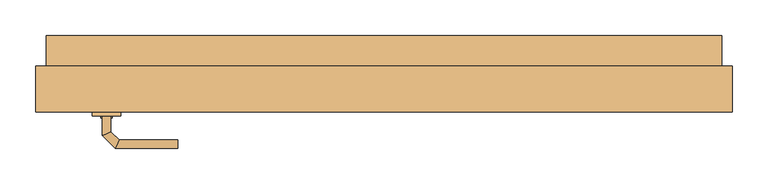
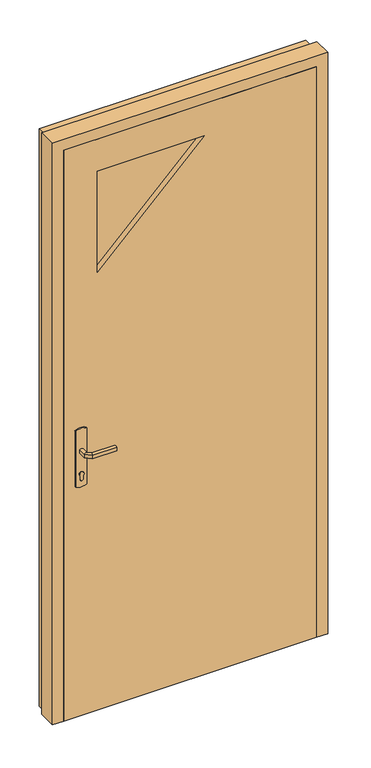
"""IFC4 building model written with IfcOpenShell, lengths in millimetres: door geometry, Entrée (avec angle d'ouverture) : PV Triangulaire (0.90 m x 2.15 m)."""

from ifc_helpers import new_model, si_unit, point, frame, frame_2d, origin, place, context, project, spatial, polyline, circle_curve, ellipse_curve, trimmed, segment, composite_curve, outline, extrude, faceted_brep, source, transform, mapped, element, save
from ifc_brep_helpers import plane_surface, cylinder_surface, advanced_brep


def door_5b9d6ae5(model_context):
    return source(origin(), model_context, "Body", "SolidModel", [
        extrude(outline(composite_curve([segment(polyline([(908.0464422, -405.0), (895.0, -405.0)]), True, "CONTINUOUS"), segment(trimmed(circle_curve(frame_2d((895.0, -400.0)), 5.0), [point((895.0, -405.0))], [point((895.0, -395.0))], False, "CARTESIAN"), True, "CONTINUOUS"), segment(polyline([(895.0, -395.0), (908.0464422, -395.0)]), True, "CONTINUOUS"), segment(trimmed(circle_curve(frame_2d((914.2914402, -400.0)), 8.0), [point((908.0464422, -395.0))], [point((908.0464422, -405.0))], False, "CARTESIAN"), True, "CONTINUOUS")], self_intersect=False)), frame((0.0, -53.0, 0.0), z_axis=(0.0, 1.0, 0.0), x_axis=(0.0, 0.0, 1.0)), (0.0, 0.0, 1.0), 5.0),
        extrude(outline(composite_curve([segment(polyline([(908.0464422, -405.0), (895.0, -405.0)]), True, "CONTINUOUS"), segment(trimmed(circle_curve(frame_2d((895.0, -400.0)), 5.0), [point((895.0, -405.0))], [point((895.0, -395.0))], False, "CARTESIAN"), True, "CONTINUOUS"), segment(polyline([(895.0, -395.0), (908.0464422, -395.0)]), True, "CONTINUOUS"), segment(trimmed(circle_curve(frame_2d((914.2914402, -400.0)), 8.0), [point((908.0464422, -395.0))], [point((908.0464422, -405.0))], False, "CARTESIAN"), True, "CONTINUOUS")], self_intersect=False)), frame((0.0, -116.0, 0.0), z_axis=(0.0, 1.0, 0.0), x_axis=(0.0, 0.0, 1.0)), (0.0, 0.0, 1.0), 3.0),
        advanced_brep(
        [(-394.0, -53.0, 993.0), (-394.0, -53.0, 1007.0), (-406.0, -53.0, 1007.0), (-406.0, -53.0, 993.0), (-394.0, -30.5147955, 993.0), (-394.0, -30.5147955, 1007.0), (-406.0, -25.5442327, 1007.0), (-406.0, -25.5442327, 993.0), (-382.5147186, -19.0295141, 993.0), (-382.5147186, -19.0295141, 1007.0), (-387.4852814, -7.0295141, 1007.0), (-387.4852814, -7.0295141, 993.0), (-299.9542164, -19.0295141, 993.0), (-299.9542164, -7.0295141, 993.0), (-299.9542164, -7.0295141, 1007.0), (-299.9542164, -19.0295141, 1007.0)],
        [
            (0, 1),
            (1, 2, circle_curve(frame((-400.0, -53.0, 986.9542278), z_axis=(0.0, -1.0, 0.0), x_axis=(-1.0, 0.0, 0.0)), 20.9244589)),
            (2, 3),
            (3, 0, circle_curve(frame((-400.0, -53.0, 1013.0457722), z_axis=(0.0, -1.0, 0.0), x_axis=(-1.0, 0.0, 0.0)), 20.9244589)),
            (0, 4),
            (4, 5),
            (5, 1),
            (5, 6, ellipse_curve(frame((-400.0, -28.0295141, 986.9542278), z_axis=(-0.3826834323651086, -0.923879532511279, 0.0), x_axis=(0.9238795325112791, -0.3826834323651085, 0.0)), 22.6484711, 20.9244589)),
            (6, 2),
            (6, 7),
            (7, 3),
            (7, 4, ellipse_curve(frame((-400.0, -28.0295141, 1013.0457722), z_axis=(-0.3826834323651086, -0.923879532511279, 0.0), x_axis=(0.9238795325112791, -0.3826834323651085, 0.0)), 22.6484711, 20.9244589)),
            (4, 8),
            (8, 9),
            (9, 5),
            (9, 10, ellipse_curve(frame((-385.0, -13.0295141, 986.9542278), z_axis=(-0.9238795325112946, -0.38268343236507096, 0.0), x_axis=(0.3826834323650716, -0.9238795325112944, 0.0)), 22.6484711, 20.9244589)),
            (10, 6),
            (10, 11),
            (11, 7),
            (11, 8, ellipse_curve(frame((-385.0, -13.0295141, 1013.0457722), z_axis=(-0.9238795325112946, -0.38268343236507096, 0.0), x_axis=(0.3826834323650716, -0.9238795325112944, 0.0)), 22.6484711, 20.9244589)),
            (12, 13, circle_curve(frame((-299.9542164, -13.0295141, 1013.0457722), z_axis=(1.0, 0.0, 0.0), x_axis=(0.0, 1.0, 0.0)), 20.9244589)),
            (13, 14),
            (14, 15, circle_curve(frame((-299.9542164, -13.0295141, 986.9542278), z_axis=(1.0, 0.0, 0.0), x_axis=(0.0, 1.0, 0.0)), 20.9244589)),
            (15, 12),
            (8, 12),
            (15, 9),
            (14, 10),
            (13, 11),
        ],
        [
            plane_surface(frame((-409.2195445, -53.0, 1000.0), z_axis=(0.0, -1.0, 0.0), x_axis=(0.0, 0.0, 1.0))),
            plane_surface(frame((-394.0, -53.0, 993.0), z_axis=(1.0, 0.0, 0.0), x_axis=(0.0, 1.0, 0.0))),
            cylinder_surface(frame((-400.0, -53.0, 986.9542278), z_axis=(0.0, -1.0, 0.0), x_axis=(-1.0, 0.0, 0.0)), 20.9244589),
            plane_surface(frame((-406.0, -53.0, 1007.0), z_axis=(-1.0, 0.0, 0.0), x_axis=(0.0, 1.0, 0.0))),
            cylinder_surface(frame((-400.0, -53.0, 1013.0457722), z_axis=(0.0, -1.0, 0.0), x_axis=(-1.0, 0.0, 0.0)), 20.9244589),
            plane_surface(frame((-394.0, -30.5147955, 993.0), z_axis=(0.7071067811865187, -0.7071067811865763, 0.0), x_axis=(0.7071067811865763, 0.7071067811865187, 0.0))),
            cylinder_surface(frame((-400.0, -28.0295141, 986.9542278), z_axis=(-0.7071067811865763, -0.7071067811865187, 0.0), x_axis=(-0.7071067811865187, 0.7071067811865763, 0.0)), 20.9244589),
            plane_surface(frame((-406.0, -25.5442327, 1007.0), z_axis=(-0.7071067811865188, 0.7071067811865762, 0.0), x_axis=(0.7071067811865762, 0.7071067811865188, 0.0))),
            cylinder_surface(frame((-400.0, -28.0295141, 1013.0457722), z_axis=(-0.7071067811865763, -0.7071067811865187, 0.0), x_axis=(-0.7071067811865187, 0.7071067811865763, 0.0)), 20.9244589),
            plane_surface(frame((-299.9542164, -13.0295141, 990.7804555), z_axis=(1.0, 0.0, 0.0), x_axis=(0.0, 1.0, 0.0))),
            plane_surface(frame((-382.5147186, -19.0295141, 993.0), z_axis=(0.0, -1.0, 0.0), x_axis=(1.0, 0.0, 0.0))),
            cylinder_surface(frame((-385.0, -13.0295141, 986.9542278), z_axis=(-1.0, 0.0, 0.0), x_axis=(0.0, 1.0, 0.0)), 20.9244589),
            plane_surface(frame((-387.4852814, -7.0295141, 1007.0), z_axis=(0.0, 1.0, 0.0), x_axis=(1.0, 0.0, 0.0))),
            cylinder_surface(frame((-385.0, -13.0295141, 1013.0457722), z_axis=(-1.0, 0.0, 0.0), x_axis=(0.0, 1.0, 0.0)), 20.9244589),
        ],
        [
            (0, [[1, 2, 3, 4]]),
            (1, [[-1, 5, 6, 7]]),
            (2, [[-2, -7, 8, 9]]),
            (3, [[-3, -9, 10, 11]]),
            (4, [[-4, -11, 12, -5]]),
            (5, [[-6, 13, 14, 15]]),
            (6, [[-8, -15, 16, 17]]),
            (7, [[-10, -17, 18, 19]]),
            (8, [[-12, -19, 20, -13]]),
            (9, [[21, 22, 23, 24]]),
            (10, [[-14, 25, -24, 26]]),
            (11, [[-16, -26, -23, 27]]),
            (12, [[-18, -27, -22, 28]]),
            (13, [[-20, -28, -21, -25]]),
        ],
    ),
        advanced_brep(
        [(-406.0, -113.0, 1007.0), (-394.0, -113.0, 1007.0), (-394.0, -113.0, 993.0), (-406.0, -113.0, 993.0), (-406.0, -140.6509507, 1007.0), (-394.0, -135.680388, 1007.0), (-394.0, -135.680388, 993.0), (-406.0, -140.6509507, 993.0), (-387.62279, -159.0281607, 1007.0), (-382.6522273, -147.0281607, 1007.0), (-382.6522273, -147.0281607, 993.0), (-387.62279, -159.0281607, 993.0), (-299.9813594, -159.0281607, 1007.0), (-299.9813594, -159.0281607, 993.0), (-299.9813594, -147.0281607, 993.0), (-299.9813594, -147.0281607, 1007.0)],
        [
            (0, 1, circle_curve(frame((-400.0, -113.0, 986.9542278), z_axis=(0.0, 1.0, 0.0), x_axis=(1.0, 0.0, 0.0)), 20.9244589)),
            (1, 2),
            (2, 3, circle_curve(frame((-400.0, -113.0, 1013.0457722), z_axis=(0.0, 1.0, 0.0), x_axis=(1.0, 0.0, 0.0)), 20.9244589)),
            (3, 0),
            (0, 4),
            (4, 5, ellipse_curve(frame((-400.0, -138.1656693, 986.9542278), z_axis=(-0.3826834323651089, 0.9238795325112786, 0.0), x_axis=(0.9238795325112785, 0.3826834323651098, 0.0)), 22.6484711, 20.9244589)),
            (5, 1),
            (5, 6),
            (6, 2),
            (6, 7, ellipse_curve(frame((-400.0, -138.1656693, 1013.0457722), z_axis=(-0.3826834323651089, 0.9238795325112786, 0.0), x_axis=(0.9238795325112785, 0.3826834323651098, 0.0)), 22.6484711, 20.9244589)),
            (7, 3),
            (7, 4),
            (4, 8),
            (8, 9, ellipse_curve(frame((-385.1375087, -153.0281607, 986.9542278), z_axis=(-0.9238795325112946, 0.38268343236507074, 0.0), x_axis=(0.3826834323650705, 0.9238795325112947, 0.0)), 22.6484711, 20.9244589)),
            (9, 5),
            (9, 10),
            (10, 6),
            (10, 11, ellipse_curve(frame((-385.1375087, -153.0281607, 1013.0457722), z_axis=(-0.9238795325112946, 0.38268343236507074, 0.0), x_axis=(0.3826834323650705, 0.9238795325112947, 0.0)), 22.6484711, 20.9244589)),
            (11, 7),
            (11, 8),
            (12, 13),
            (13, 14, circle_curve(frame((-299.9813594, -153.0281607, 1013.0457722), z_axis=(1.0, 0.0, 0.0), x_axis=(0.0, 1.0, 0.0)), 20.9244589)),
            (14, 15),
            (15, 12, circle_curve(frame((-299.9813594, -153.0281607, 986.9542278), z_axis=(1.0, 0.0, 0.0), x_axis=(0.0, 1.0, 0.0)), 20.9244589)),
            (8, 12),
            (15, 9),
            (14, 10),
            (13, 11),
        ],
        [
            plane_surface(frame((-409.2195445, -113.0, 1000.0), z_axis=(0.0, 1.0, 0.0), x_axis=(0.0, 0.0, -1.0))),
            cylinder_surface(frame((-400.0, -113.0, 986.9542278), z_axis=(0.0, 1.0, 0.0), x_axis=(1.0, 0.0, 0.0)), 20.9244589),
            plane_surface(frame((-394.0, -113.0, 1007.0), z_axis=(1.0, 0.0, 0.0), x_axis=(0.0, -1.0, 0.0))),
            cylinder_surface(frame((-400.0, -113.0, 1013.0457722), z_axis=(0.0, 1.0, 0.0), x_axis=(1.0, 0.0, 0.0)), 20.9244589),
            plane_surface(frame((-406.0, -113.0, 993.0), z_axis=(-1.0, 0.0, 0.0), x_axis=(0.0, -1.0, 0.0))),
            cylinder_surface(frame((-400.0, -138.1656693, 986.9542278), z_axis=(-0.7071067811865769, 0.7071067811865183, 0.0), x_axis=(0.7071067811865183, 0.7071067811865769, 0.0)), 20.9244589),
            plane_surface(frame((-394.0, -135.680388, 1007.0), z_axis=(0.7071067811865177, 0.7071067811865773, 0.0), x_axis=(0.7071067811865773, -0.7071067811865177, 0.0))),
            cylinder_surface(frame((-400.0, -138.1656693, 1013.0457722), z_axis=(-0.7071067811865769, 0.7071067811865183, 0.0), x_axis=(0.7071067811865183, 0.7071067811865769, 0.0)), 20.9244589),
            plane_surface(frame((-406.0, -140.6509507, 993.0), z_axis=(-0.7071067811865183, -0.7071067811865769, 0.0), x_axis=(0.7071067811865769, -0.7071067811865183, 0.0))),
            plane_surface(frame((-299.9813594, -153.0281607, 990.7804555), z_axis=(1.0, 0.0, 0.0), x_axis=(0.0, 1.0, 0.0))),
            cylinder_surface(frame((-385.1375087, -153.0281607, 986.9542278), z_axis=(-1.0, 0.0, 0.0), x_axis=(0.0, 1.0, 0.0)), 20.9244589),
            plane_surface(frame((-382.6522273, -147.0281607, 1007.0), z_axis=(0.0, 1.0, 0.0), x_axis=(1.0, 0.0, 0.0))),
            cylinder_surface(frame((-385.1375087, -153.0281607, 1013.0457722), z_axis=(-1.0, 0.0, 0.0), x_axis=(0.0, 1.0, 0.0)), 20.9244589),
            plane_surface(frame((-387.62279, -159.0281607, 993.0), z_axis=(0.0, -1.0, 0.0), x_axis=(1.0, 0.0, 0.0))),
        ],
        [
            (0, [[1, 2, 3, 4]]),
            (1, [[-1, 5, 6, 7]]),
            (2, [[-2, -7, 8, 9]]),
            (3, [[-3, -9, 10, 11]]),
            (4, [[-4, -11, 12, -5]]),
            (5, [[-6, 13, 14, 15]]),
            (6, [[-8, -15, 16, 17]]),
            (7, [[-10, -17, 18, 19]]),
            (8, [[-12, -19, 20, -13]]),
            (9, [[21, 22, 23, 24]]),
            (10, [[-14, 25, -24, 26]]),
            (11, [[-16, -26, -23, 27]]),
            (12, [[-18, -27, -22, 28]]),
            (13, [[-20, -28, -21, -25]]),
        ],
    ),
        extrude(outline(composite_curve([segment(trimmed(circle_curve(frame_2d((1045.3589838, -400.0)), 40.0), [point((1080.0, -380.0))], [point((1080.0, -420.0))], False, "CARTESIAN"), True, "CONTINUOUS"), segment(polyline([(1080.0, -420.0), (870.0, -420.0)]), True, "CONTINUOUS"), segment(trimmed(circle_curve(frame_2d((904.6410162, -400.0)), 40.0), [point((870.0, -420.0))], [point((870.0, -380.0))], False, "CARTESIAN"), True, "CONTINUOUS"), segment(polyline([(870.0, -380.0), (1080.0, -380.0)]), True, "CONTINUOUS")], self_intersect=False)), frame((0.0, -58.0, 0.0), z_axis=(0.0, 1.0, 0.0), x_axis=(0.0, 0.0, 1.0)), (0.0, 0.0, 1.0), 5.0),
        extrude(outline(composite_curve([segment(trimmed(circle_curve(frame_2d((904.6410162, -400.0)), 40.0), [point((870.0, -420.0))], [point((870.0, -380.0))], False, "CARTESIAN"), True, "CONTINUOUS"), segment(polyline([(870.0, -380.0), (1080.0, -380.0)]), True, "CONTINUOUS"), segment(trimmed(circle_curve(frame_2d((1045.3589838, -400.0)), 40.0), [point((1080.0, -380.0))], [point((1080.0, -420.0))], False, "CARTESIAN"), True, "CONTINUOUS"), segment(polyline([(1080.0, -420.0), (870.0, -420.0)]), True, "CONTINUOUS")], self_intersect=False)), frame((0.0, -113.0, 0.0), z_axis=(0.0, 1.0, 0.0), x_axis=(0.0, 0.0, 1.0)), (0.0, 0.0, 1.0), 5.0),
        faceted_brep([(440.0, -108.0, 2150.0), (-460.0, -108.0, 2150.0), (-460.0, -108.0, 0.0), (440.0, -108.0, 0.0), (41.0511776, -108.0, 2030.0), (-340.0, -108.0, 1648.9488223), (-340.0, -108.0, 2030.0), (440.0, -58.0, 2150.0), (440.0, -58.0, 0.0), (-460.0, -58.0, 0.0), (-460.0, -58.0, 2150.0), (-340.0, -58.0, 1135.0), (320.0, -58.0, 1135.0), (320.0, -58.0, 2030.0), (-340.0, -58.0, 2030.0), (-340.0, -58.0, 120.0), (320.0, -58.0, 120.0), (320.0, -58.0, 1015.0), (-340.0, -58.0, 1015.0), (41.0511776, -78.0, 2030.0), (-340.0, -78.0, 1648.9488223), (-340.0, -78.0, 1135.0), (320.0, -78.0, 2030.0), (320.0, -78.0, 1135.0), (-340.0, -66.0, 120.0), (-340.0, -66.0, 1015.0), (320.0, -66.0, 1015.0), (320.0, -66.0, 120.0)], [[[0, 1, 2, 3], [4, 5, 6]], [[7, 8, 9, 10], [11, 12, 13, 14], [15, 16, 17, 18]], [[1, 0, 7, 10]], [[2, 1, 10, 9]], [[3, 2, 9, 8]], [[0, 3, 8, 7]], [[5, 4, 19, 20]], [[6, 5, 20, 21, 11, 14]], [[4, 6, 14, 13, 22, 19]], [[22, 23, 21, 20, 19]], [[21, 23, 12, 11]], [[23, 22, 13, 12]], [[24, 25, 26, 27]], [[24, 27, 16, 15]], [[27, 26, 17, 16]], [[26, 25, 18, 17]], [[25, 24, 15, 18]]]),
        extrude(outline(polyline([(1648.9488223, -340.0), (2030.0, 41.0511776), (2030.0, -340.0), (1648.9488223, -340.0)])), frame((0.0, -88.0, 0.0), z_axis=(0.0, 1.0, 0.0), x_axis=(0.0, 0.0, 1.0)), (0.0, 0.0, 1.0), 10.0),
        faceted_brep([(-500.0, -43.0, 0.0), (-445.0, -43.0, 0.0), (-445.0, -58.0, 0.0), (-460.0, -58.0, 0.0), (-460.0, -108.0, 0.0), (-500.0, -108.0, 0.0), (-500.0, -43.0, 2190.0), (480.0, -43.0, 2190.0), (480.0, -43.0, 0.0), (425.0, -43.0, 0.0), (425.0, -43.0, 2135.0), (-445.0, -43.0, 2135.0), (-445.0, -58.0, 2135.0), (425.0, -58.0, 2135.0), (425.0, -58.0, 0.0), (440.0, -58.0, 0.0), (440.0, -58.0, 2150.0), (-460.0, -58.0, 2150.0), (-460.0, -108.0, 2150.0), (440.0, -108.0, 2150.0), (440.0, -108.0, 0.0), (480.0, -108.0, 0.0), (480.0, -108.0, 2190.0), (-500.0, -108.0, 2190.0)], [[[0, 1, 2, 3, 4, 5]], [[1, 0, 6, 7, 8, 9, 10, 11]], [[2, 1, 11, 12]], [[3, 2, 12, 13, 14, 15, 16, 17]], [[4, 3, 17, 18]], [[5, 4, 18, 19, 20, 21, 22, 23]], [[0, 5, 23, 6]], [[7, 22, 21, 8]], [[8, 21, 20, 15, 14, 9]], [[13, 10, 9, 14]], [[19, 16, 15, 20]], [[12, 11, 10, 13]], [[18, 17, 16, 19]], [[6, 23, 22, 7]]]),
        extrude(outline(polyline([(0.0, -485.0), (0.0, -470.0), (2160.0, -470.0), (2160.0, 450.0), (0.0, 450.0), (0.0, 465.0), (2175.0, 465.0), (2175.0, -485.0), (0.0, -485.0)])), frame((0.0, -43.0, 0.0), z_axis=(0.0, 1.0, 0.0), x_axis=(0.0, 0.0, 1.0)), (0.0, 0.0, 1.0), 43.0),
    ])


if __name__ == "__main__":
    model = new_model("IFC4")
    model_context = context("Model", 3, world=origin())
    ifc_project = project(units=[si_unit("LENGTHUNIT", "METRE", prefix="MILLI")], contexts=[model_context])
    site = spatial("IfcSite", under=ifc_project)
    building = spatial("IfcBuilding", under=site)
    placement = place(None, origin())
    door_shape = door_5b9d6ae5(model_context)
    element("IfcDoor", 1, ObjectType="Entrée (avec angle d'ouverture) : PV Triangulaire (0.90 m x 2.15 m)", at=placement, inside=building, context=model_context, shape_type="MappedRepresentation", body=[
        mapped(door_shape, transform((0.0, 0.0, 0.0), x_axis=(1.0, 0.0, 0.0), y_axis=(0.0, 1.0, 0.0), z_axis=(0.0, 0.0, 1.0))),
    ])
    save(model, "model.ifc")
